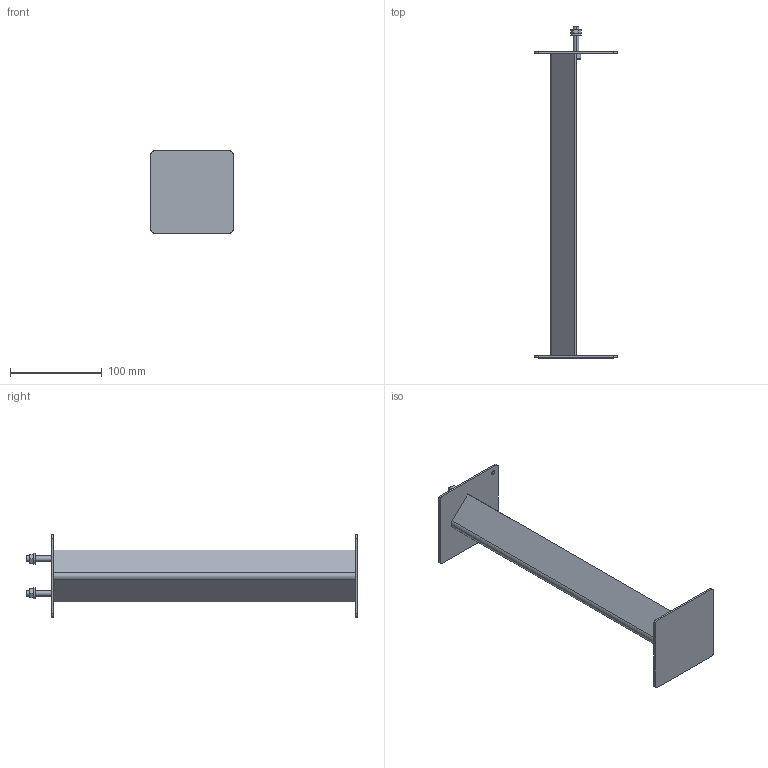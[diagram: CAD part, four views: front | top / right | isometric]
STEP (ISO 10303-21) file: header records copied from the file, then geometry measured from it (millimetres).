
FILE_DESCRIPTION (( 'STEP AP203' ), '1' );
FILE_NAME ('204GA0009.STEP', '2020-07-10T06:23:40', ( '' ), ( '' ), 'SwSTEP 2.0', 'SolidWorks 2019', '' );
FILE_SCHEMA (( 'CONFIG_CONTROL_DESIGN' ));
Length unit declared in the file: millimetre
Products named in the file (7): M148_Bla podst_rs_M148Grunt; 204GA0009; GNIAZ_M6x_M6x30; M6_rs; M148_Kat grunt_rs; POD 6,4_rs; M148_Bla podst_rs_M148W6Grunt
Assembly tree (9 placements, depth 2):
  204GA0009
    M148_Bla podst_rs_M148Grunt
    M148_Kat grunt_rs
    M148_Bla podst_rs_M148W6Grunt
    M6_rs  x2
    GNIAZ_M6x_M6x30  x2
    POD 6,4_rs  x2
Bounding box: 90 x 362.5 x 90 mm (x, y, z)
Volume: 116569.8 mm3; surface area: 88319.7 mm2
Topology: 9 solids, 9 shells, 159 faces, 357 edges, 216 vertices
Faces by surface type: plane 74, cylinder 45, cone 32, torus 8
Entity records: 3848 total; most frequent: CARTESIAN_POINT 620, DIRECTION 543, ORIENTED_EDGE 474, EDGE_CURVE 237, AXIS2_PLACEMENT_3D 214, VERTEX_POINT 147, EDGE_LOOP 118, VECTOR 115
